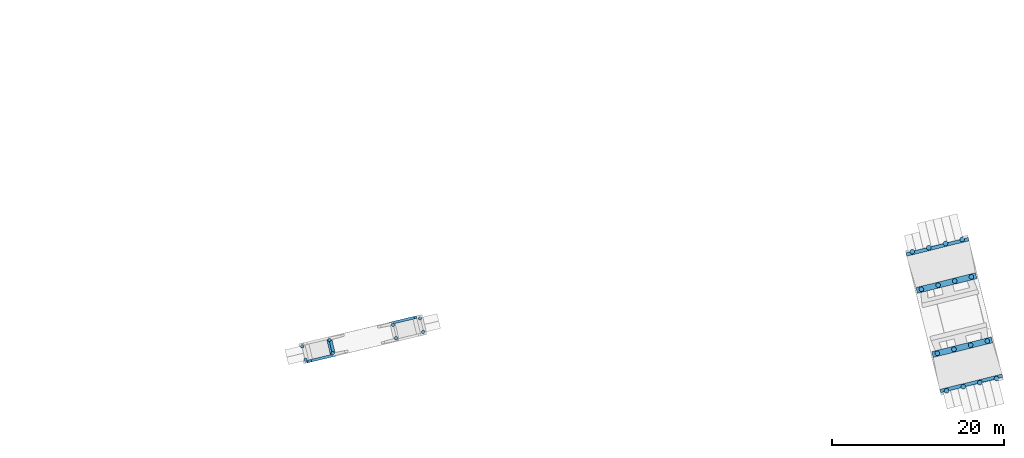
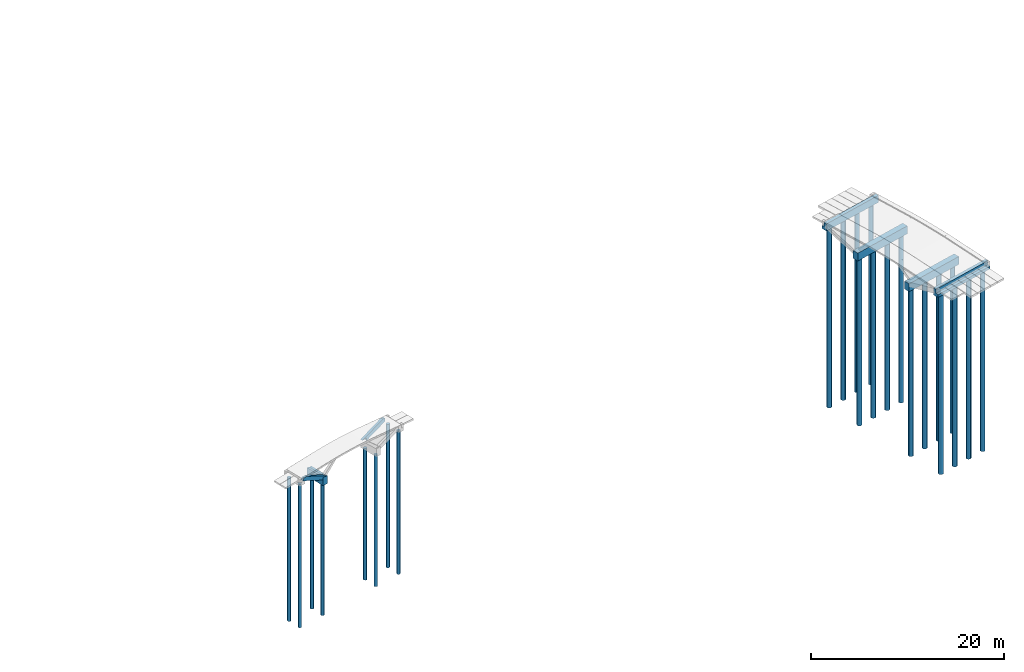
# One storey, part 1 of 15: 24 piles, 7 footings.
"""IFC2X3 building model written with IfcOpenShell, lengths in millimetres."""

from ifc_helpers import new_model, entity, si_unit, converted_unit, derived_unit, direction, frame, frame_2d, origin, origin_2d_with_axis, place, context, subcontext, project, spatial, polyline, rectangle, circle, outline, extrude, material, element, save


model = new_model("IFC2X3")

# Units and contexts
model_context = context("Model", 3, precision=0.01, world=origin(), true_north=direction((6.12303176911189e-17, 1.0)))
body_context = subcontext(model_context, "Body", "Model", "MODEL_VIEW")
ifc_project = project(units=[si_unit("LENGTHUNIT", "METRE", prefix="MILLI"), si_unit("AREAUNIT", "SQUARE_METRE"), si_unit("VOLUMEUNIT", "CUBIC_METRE"), converted_unit("PLANEANGLEUNIT", "DEGREE", entity("IfcRatioMeasure", 0.0174532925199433), si_unit("PLANEANGLEUNIT", "RADIAN"), dimensions=[0, 0, 0, 0, 0, 0, 0]), si_unit("MASSUNIT", "GRAM", prefix="KILO"), derived_unit("MASSDENSITYUNIT", [(si_unit("MASSUNIT", "GRAM", prefix="KILO"), 1), (si_unit("LENGTHUNIT", "METRE"), -3)]), si_unit("TIMEUNIT", "SECOND"), si_unit("FREQUENCYUNIT", "HERTZ"), si_unit("THERMODYNAMICTEMPERATUREUNIT", "DEGREE_CELSIUS"), derived_unit("THERMALTRANSMITTANCEUNIT", [(si_unit("MASSUNIT", "GRAM", prefix="KILO"), 1), (si_unit("THERMODYNAMICTEMPERATUREUNIT", "KELVIN"), -1), (si_unit("TIMEUNIT", "SECOND"), -3)]), derived_unit("VOLUMETRICFLOWRATEUNIT", [(si_unit("LENGTHUNIT", "METRE"), 3), (si_unit("TIMEUNIT", "SECOND"), -1)]), si_unit("ELECTRICCURRENTUNIT", "AMPERE"), si_unit("ELECTRICVOLTAGEUNIT", "VOLT"), si_unit("POWERUNIT", "WATT"), si_unit("FORCEUNIT", "NEWTON", prefix="KILO"), si_unit("ILLUMINANCEUNIT", "LUX"), si_unit("LUMINOUSFLUXUNIT", "LUMEN"), si_unit("LUMINOUSINTENSITYUNIT", "CANDELA"), derived_unit("USERDEFINED", [(si_unit("MASSUNIT", "GRAM", prefix="KILO"), -1), (si_unit("LENGTHUNIT", "METRE"), -2), (si_unit("TIMEUNIT", "SECOND"), 3), (si_unit("LUMINOUSFLUXUNIT", "LUMEN"), 1)]), derived_unit("LINEARVELOCITYUNIT", [(si_unit("LENGTHUNIT", "METRE"), 1), (si_unit("TIMEUNIT", "SECOND"), -1)]), si_unit("PRESSUREUNIT", "PASCAL"), derived_unit("USERDEFINED", [(si_unit("LENGTHUNIT", "METRE"), -2), (si_unit("MASSUNIT", "GRAM", prefix="KILO"), 1), (si_unit("TIMEUNIT", "SECOND"), -2)])], contexts=[model_context])

# Site, building, storey
site_placement = place(None, origin())
site = spatial("IfcSite", under=ifc_project, at=site_placement, Name="Bruggen Achterburggracht Machinesloot", CompositionType="ELEMENT")
building_placement = place(site_placement, origin())
building = spatial("IfcBuilding", under=site, at=building_placement, Name="Bruggen Achterburggracht Machinesloot", CompositionType="ELEMENT")
storey_placement = place(building_placement, origin())
storey = spatial("IfcBuildingStorey", under=building, at=storey_placement, Name="00 begane grond", CompositionType="ELEMENT", Elevation=2.70716782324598e-13)

# Footing
ifc_material = material(Name="00_PBT_MAT_beton t.p.g.")
footing_1_placement = place(storey_placement, origin())
element("IfcFooting", 1, at=footing_1_placement, inside=storey, material=ifc_material, Name="16_PBT_SF_funderingsbalk enkele sponning:Brug 3_600x1000", ObjectType="16_PBT_SF_funderingsbalk enkele sponning:Brug 3_600x1000", PredefinedType="NOTDEFINED", context=body_context, shape_type="SweptSolid", body=[
    extrude(outline(polyline([(-313.333333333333, -316.666666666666), (686.666666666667, -316.666666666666), (686.666666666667, 283.333333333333), (-373.333333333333, 283.333333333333), (-373.333333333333, 33.3333333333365), (-313.333333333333, 33.3333333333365), (-313.333333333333, -316.666666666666)])), frame((-32713.778425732, -47840.6234461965, -1663.33333333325), z_axis=(-0.231394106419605, 0.972860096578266, 0.0), x_axis=(0.0, 0.0, -1.0)), (0.0, 0.0, 1.0), 2400.00000048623),
])

# Piles
pile_1_placement = place(storey_placement, origin())
element("IfcPile", 2, at=pile_1_placement, inside=storey, Name="17_PBT_SFO_paal_rond:Ø400 (schroefpaal) brug 3 -855P -19000NAP", ObjectType="17_PBT_SFO_paal_rond:Ø400 (schroefpaal) brug 3 -855P -19000NAP", ConstructionType="NOTDEFINED", PredefinedType="NOTDEFINED", context=body_context, shape_type="SweptSolid", body=[
    extrude(circle(Radius=200.0, at=origin_2d_with_axis()), frame((-22604.8420867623, -43380.323378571, -19000.0), z_axis=(0.0, 0.0, 1.0), x_axis=(0.97285671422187, 0.231408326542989, 0.0)), (0.0, 0.0, 1.0), 18165.0),
])
pile_2_placement = place(storey_placement, origin())
element("IfcPile", 3, at=pile_2_placement, inside=storey, Name="17_PBT_SFO_paal_rond:Ø400 (schroefpaal) brug 3 -2350P -19000NAP", ObjectType="17_PBT_SFO_paal_rond:Ø400 (schroefpaal) brug 3 -2350P -19000NAP", ConstructionType="NOTDEFINED", PredefinedType="NOTDEFINED", context=body_context, shape_type="SweptSolid", body=[
    extrude(circle(Radius=200.0, at=origin_2d_with_axis()), frame((-25766.6358819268, -44132.3981358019, -19000.0), z_axis=(0.0, 0.0, 1.0), x_axis=(0.97285671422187, 0.231408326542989, 0.0)), (0.0, 0.0, 1.0), 16670.0),
])
pile_3_placement = place(storey_placement, origin())
element("IfcPile", 4, at=pile_3_placement, inside=storey, Name="17_PBT_SFO_paal_rond:Ø400 (schroefpaal) brug 3 -2350P -19000NAP", ObjectType="17_PBT_SFO_paal_rond:Ø400 (schroefpaal) brug 3 -2350P -19000NAP", ConstructionType="NOTDEFINED", PredefinedType="NOTDEFINED", context=body_context, shape_type="SweptSolid", body=[
    extrude(circle(Radius=200.0, at=origin_2d_with_axis()), frame((-33160.3515676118, -45891.1030803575, -19000.0), z_axis=(0.0, 0.0, 1.0), x_axis=(0.97285671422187, 0.231408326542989, 0.0)), (0.0, 0.0, 1.0), 16670.0),
])
pile_4_placement = place(storey_placement, origin())
element("IfcPile", 5, at=pile_4_placement, inside=storey, Name="17_PBT_SFO_paal_rond:Ø400 (schroefpaal) brug 3 -855P -19000NAP", ObjectType="17_PBT_SFO_paal_rond:Ø400 (schroefpaal) brug 3 -855P -19000NAP", ConstructionType="NOTDEFINED", PredefinedType="NOTDEFINED", context=body_context, shape_type="SweptSolid", body=[
    extrude(circle(Radius=200.0, at=origin_2d_with_axis()), frame((-36322.1351434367, -46643.1825510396, -19000.0), z_axis=(0.0, 0.0, 1.0), x_axis=(0.97285671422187, 0.231408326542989, 0.0)), (0.0, 0.0, 1.0), 18165.0),
])
pile_5_placement = place(storey_placement, origin())
element("IfcPile", 6, at=pile_5_placement, inside=storey, Name="17_PBT_SFO_paal_rond:Ø400 (schroefpaal) brug 3 -855P -19000NAP", ObjectType="17_PBT_SFO_paal_rond:Ø400 (schroefpaal) brug 3 -855P -19000NAP", ConstructionType="NOTDEFINED", PredefinedType="NOTDEFINED", context=body_context, shape_type="SweptSolid", body=[
    extrude(circle(Radius=200.0, at=origin_2d_with_axis()), frame((-22234.5887642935, -44936.894121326, -19000.0), z_axis=(0.0, 0.0, 1.0), x_axis=(0.97285671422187, 0.231408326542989, 0.0)), (0.0, 0.0, 1.0), 18165.0),
])
pile_6_placement = place(storey_placement, origin())
element("IfcPile", 7, at=pile_6_placement, inside=storey, Name="17_PBT_SFO_paal_rond:Ø400 (schroefpaal) brug 3 -2350P -19000NAP", ObjectType="17_PBT_SFO_paal_rond:Ø400 (schroefpaal) brug 3 -2350P -19000NAP", ConstructionType="NOTDEFINED", PredefinedType="NOTDEFINED", context=body_context, shape_type="SweptSolid", body=[
    extrude(circle(Radius=200.0, at=origin_2d_with_axis()), frame((-25396.382559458, -45688.9688785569, -19000.0), z_axis=(0.0, 0.0, 1.0), x_axis=(0.97285671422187, 0.231408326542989, 0.0)), (0.0, 0.0, 1.0), 16670.0),
])
pile_7_placement = place(storey_placement, origin())
element("IfcPile", 8, at=pile_7_placement, inside=storey, Name="17_PBT_SFO_paal_rond:Ø400 (schroefpaal) brug 3 -2350P -19000NAP", ObjectType="17_PBT_SFO_paal_rond:Ø400 (schroefpaal) brug 3 -2350P -19000NAP", ConstructionType="NOTDEFINED", PredefinedType="NOTDEFINED", context=body_context, shape_type="SweptSolid", body=[
    extrude(circle(Radius=200.0, at=origin_2d_with_axis()), frame((-32790.098245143, -47447.6738231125, -19000.0), z_axis=(0.0, 0.0, 1.0), x_axis=(0.97285671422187, 0.231408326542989, 0.0)), (0.0, 0.0, 1.0), 16670.0),
])
pile_8_placement = place(storey_placement, origin())
element("IfcPile", 9, at=pile_8_placement, inside=storey, Name="17_PBT_SFO_paal_rond:Ø400 (schroefpaal) brug 3 -855P -19000NAP", ObjectType="17_PBT_SFO_paal_rond:Ø400 (schroefpaal) brug 3 -855P -19000NAP", ConstructionType="NOTDEFINED", PredefinedType="NOTDEFINED", context=body_context, shape_type="SweptSolid", body=[
    extrude(circle(Radius=200.0, at=origin_2d_with_axis()), frame((-35951.8818209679, -48199.7532937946, -19000.0), z_axis=(0.0, 0.0, 1.0), x_axis=(0.97285671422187, 0.231408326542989, 0.0)), (0.0, 0.0, 1.0), 18165.0),
])

# Footings
footing_2_placement = place(storey_placement, origin())
element("IfcFooting", 10, at=footing_2_placement, inside=storey, material=ifc_material, Name="16_PBT_SF_funderingsbalk enkele sponning:Brug 4_700x1000", ObjectType="16_PBT_SF_funderingsbalk enkele sponning:Brug 4_700x1000", PredefinedType="NOTDEFINED", context=body_context, shape_type="SweptSolid", body=[
    extrude(rectangle(XDim=7140.00000000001, YDim=700.000000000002, at=frame_2d((9.09494701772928e-13, 4.17799128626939e-12), x_axis=(1.0, 0.0))), frame((40620.6273953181, -46731.1069814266, -2350.0), z_axis=(0.0, 0.0, 1.0), x_axis=(-0.970742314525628, -0.240123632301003, 0.0)), (0.0, 0.0, 1.0), 1000.0),
])
footing_3_placement = place(storey_placement, origin())
element("IfcFooting", 11, at=footing_3_placement, inside=storey, material=ifc_material, Name="319-150_funderingsbalk tpv stootplaat:Brug 4_700x900", ObjectType="319-150_funderingsbalk tpv stootplaat:Brug 4_700x900", PredefinedType="NOTDEFINED", context=body_context, shape_type="SweptSolid", body=[
    extrude(outline(polyline([(-422.142857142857, -392.857142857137), (477.857142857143, -392.857142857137), (477.857142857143, 7.14285714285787), (-22.1428571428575, 7.14285714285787), (-22.1428571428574, 157.142857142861), (-67.1428571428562, 307.142857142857), (-422.142857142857, 307.142857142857), (-422.142857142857, -392.857142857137)])), frame((38071.1178993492, -52041.4881930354, -307.857142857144), z_axis=(0.970745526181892, 0.240110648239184, 0.0), x_axis=(0.0, 0.0, 1.0)), (0.0, 0.0, 1.0), 7500.0),
])
footing_4_placement = place(storey_placement, origin())
element("IfcFooting", 12, at=footing_4_placement, inside=storey, material=ifc_material, Name="16_PBT_SF_funderingsbalk enkele sponning:Brug 4_700x1000", ObjectType="16_PBT_SF_funderingsbalk enkele sponning:Brug 4_700x1000", PredefinedType="NOTDEFINED", context=body_context, shape_type="SweptSolid", body=[
    extrude(rectangle(XDim=700.000000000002, YDim=7140.0, at=frame_2d((-2.07478478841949e-12, 4.54747350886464e-13), x_axis=(1.0, 0.0))), frame((38771.6754267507, -39256.3911601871, -2350.0), z_axis=(0.0, 0.0, 1.0), x_axis=(-0.240123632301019, 0.970742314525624, 0.0)), (0.0, 0.0, 1.0), 1000.0),
])
footing_5_placement = place(storey_placement, origin())
element("IfcFooting", 13, at=footing_5_placement, inside=storey, material=ifc_material, Name="319-150_funderingsbalk tpv stootplaat:Brug 4_700x900", ObjectType="319-150_funderingsbalk tpv stootplaat:Brug 4_700x900", PredefinedType="NOTDEFINED", context=body_context, shape_type="SweptSolid", body=[
    extrude(outline(polyline([(-305.555555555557, -478.086525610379), (394.444444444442, -478.086525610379), (394.444444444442, -123.086525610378), (244.444444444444, -78.0865256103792), (94.4444444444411, -78.0865256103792), (94.4444444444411, 421.913474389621), (-305.555555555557, 421.913474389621), (-305.555555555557, 364.036795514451), (-305.555555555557, 27.5688837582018), (-305.555555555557, -478.086525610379)])), frame((34061.4561129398, -35831.7153631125, -251.913474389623), z_axis=(0.970739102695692, 0.240136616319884, 0.0), x_axis=(-0.240136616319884, 0.970739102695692, 0.0)), (0.0, 0.0, 1.0), 7499.99999999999),
])

# Piles
pile_9_placement = place(storey_placement, origin())
element("IfcPile", 14, at=pile_9_placement, inside=storey, Name="17_PBT_SFO_paal_rond:Ø550 (schroefpaal) brug 4 -730P -23500NAP", ObjectType="17_PBT_SFO_paal_rond:Ø550 (schroefpaal) brug 4 -730P -23500NAP", ConstructionType="NOTDEFINED", PredefinedType="NOTDEFINED", context=body_context, shape_type="SweptSolid", body=[
    extrude(circle(Radius=275.0, at=origin_2d_with_axis()), frame((38661.8876581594, -34647.7640252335, -23500.0), z_axis=(0.0, 0.0, 1.0), x_axis=(0.240058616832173, -0.970758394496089, 0.0)), (0.0, 0.0, 1.0), 22790.0),
])
pile_10_placement = place(storey_placement, origin())
element("IfcPile", 15, at=pile_10_placement, inside=storey, Name="17_PBT_SFO_paal_rond:Ø550 (schroefpaal) brug 4 -2350P -23500NAP", ObjectType="17_PBT_SFO_paal_rond:Ø550 (schroefpaal) brug 4 -2350P -23500NAP", ConstructionType="NOTDEFINED", PredefinedType="NOTDEFINED", context=body_context, shape_type="SweptSolid", body=[
    extrude(circle(Radius=275.0, at=origin_2d_with_axis()), frame((39742.467742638, -39016.1618238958, -23500.0), z_axis=(0.0, 0.0, 1.0), x_axis=(0.240058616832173, -0.970758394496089, 0.0)), (0.0, 0.0, 1.0), 21170.0),
])
pile_11_placement = place(storey_placement, origin())
element("IfcPile", 16, at=pile_11_placement, inside=storey, Name="17_PBT_SFO_paal_rond:Ø550 (schroefpaal) brug 4 -730P -23500NAP", ObjectType="17_PBT_SFO_paal_rond:Ø550 (schroefpaal) brug 4 -730P -23500NAP", ConstructionType="NOTDEFINED", PredefinedType="NOTDEFINED", context=body_context, shape_type="SweptSolid", body=[
    extrude(circle(Radius=275.0, at=origin_2d_with_axis()), frame((40603.4044471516, -34167.6467915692, -23500.0), z_axis=(0.0, 0.0, 1.0), x_axis=(0.240058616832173, -0.970758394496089, 0.0)), (0.0, 0.0, 1.0), 22790.0),
])
pile_12_placement = place(storey_placement, origin())
element("IfcPile", 17, at=pile_12_placement, inside=storey, Name="17_PBT_SFO_paal_rond:Ø550 (schroefpaal) brug 4 -2350P -23500NAP", ObjectType="17_PBT_SFO_paal_rond:Ø550 (schroefpaal) brug 4 -2350P -23500NAP", ConstructionType="NOTDEFINED", PredefinedType="NOTDEFINED", context=body_context, shape_type="SweptSolid", body=[
    extrude(circle(Radius=275.0, at=origin_2d_with_axis()), frame((41683.9845316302, -38536.0445902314, -23500.0), z_axis=(0.0, 0.0, 1.0), x_axis=(0.240058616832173, -0.970758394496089, 0.0)), (0.0, 0.0, 1.0), 21170.0),
])
pile_13_placement = place(storey_placement, origin())
element("IfcPile", 18, at=pile_13_placement, inside=storey, Name="17_PBT_SFO_paal_rond:Ø550 (schroefpaal) brug 4 -730P -23500NAP", ObjectType="17_PBT_SFO_paal_rond:Ø550 (schroefpaal) brug 4 -730P -23500NAP", ConstructionType="NOTDEFINED", PredefinedType="NOTDEFINED", context=body_context, shape_type="SweptSolid", body=[
    extrude(circle(Radius=275.0, at=origin_2d_with_axis()), frame((36720.3708691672, -35127.8812588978, -23500.0), z_axis=(0.0, 0.0, 1.0), x_axis=(0.240058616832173, -0.970758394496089, 0.0)), (0.0, 0.0, 1.0), 22790.0),
])
pile_14_placement = place(storey_placement, origin())
element("IfcPile", 19, at=pile_14_placement, inside=storey, Name="17_PBT_SFO_paal_rond:Ø550 (schroefpaal) brug 4 -2350P -23500NAP", ObjectType="17_PBT_SFO_paal_rond:Ø550 (schroefpaal) brug 4 -2350P -23500NAP", ConstructionType="NOTDEFINED", PredefinedType="NOTDEFINED", context=body_context, shape_type="SweptSolid", body=[
    extrude(circle(Radius=275.0, at=origin_2d_with_axis()), frame((37800.9509536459, -39496.2790575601, -23500.0), z_axis=(0.0, 0.0, 1.0), x_axis=(0.240058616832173, -0.970758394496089, 0.0)), (0.0, 0.0, 1.0), 21170.0),
])
pile_15_placement = place(storey_placement, origin())
element("IfcPile", 20, at=pile_15_placement, inside=storey, Name="17_PBT_SFO_paal_rond:Ø550 (schroefpaal) brug 4 -730P -23500NAP", ObjectType="17_PBT_SFO_paal_rond:Ø550 (schroefpaal) brug 4 -730P -23500NAP", ConstructionType="NOTDEFINED", PredefinedType="NOTDEFINED", context=body_context, shape_type="SweptSolid", body=[
    extrude(circle(Radius=275.0, at=origin_2d_with_axis()), frame((34778.8540801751, -35607.9984925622, -23500.0), z_axis=(0.0, 0.0, 1.0), x_axis=(0.240058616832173, -0.970758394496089, 0.0)), (0.0, 0.0, 1.0), 22790.0),
])
pile_16_placement = place(storey_placement, origin())
element("IfcPile", 21, at=pile_16_placement, inside=storey, Name="17_PBT_SFO_paal_rond:Ø550 (schroefpaal) brug 4 -2350P -23500NAP", ObjectType="17_PBT_SFO_paal_rond:Ø550 (schroefpaal) brug 4 -2350P -23500NAP", ConstructionType="NOTDEFINED", PredefinedType="NOTDEFINED", context=body_context, shape_type="SweptSolid", body=[
    extrude(circle(Radius=275.0, at=origin_2d_with_axis()), frame((35859.4341646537, -39976.3962912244, -23500.0), z_axis=(0.0, 0.0, 1.0), x_axis=(0.240058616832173, -0.970758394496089, 0.0)), (0.0, 0.0, 1.0), 21170.0),
])
pile_17_placement = place(storey_placement, origin())
element("IfcPile", 22, at=pile_17_placement, inside=storey, Name="17_PBT_SFO_paal_rond:Ø550 (schroefpaal) brug 4 -2350P -23500NAP", ObjectType="17_PBT_SFO_paal_rond:Ø550 (schroefpaal) brug 4 -2350P -23500NAP", ConstructionType="NOTDEFINED", PredefinedType="NOTDEFINED", context=body_context, shape_type="SweptSolid", body=[
    extrude(circle(Radius=275.0, at=origin_2d_with_axis()), frame((41592.9144871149, -46490.7392185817, -23500.0), z_axis=(0.0, 0.0, 1.0), x_axis=(0.240058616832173, -0.970758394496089, 0.0)), (0.0, 0.0, 1.0), 21170.0),
])
pile_18_placement = place(storey_placement, origin())
element("IfcPile", 23, at=pile_18_placement, inside=storey, Name="17_PBT_SFO_paal_rond:Ø550 (schroefpaal) brug 4 -2350P -23500NAP", ObjectType="17_PBT_SFO_paal_rond:Ø550 (schroefpaal) brug 4 -2350P -23500NAP", ConstructionType="NOTDEFINED", PredefinedType="NOTDEFINED", context=body_context, shape_type="SweptSolid", body=[
    extrude(circle(Radius=275.0, at=origin_2d_with_axis()), frame((43534.431276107, -46010.6219849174, -23500.0), z_axis=(0.0, 0.0, 1.0), x_axis=(0.240058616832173, -0.970758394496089, 0.0)), (0.0, 0.0, 1.0), 21170.0),
])
pile_19_placement = place(storey_placement, origin())
element("IfcPile", 24, at=pile_19_placement, inside=storey, Name="17_PBT_SFO_paal_rond:Ø550 (schroefpaal) brug 4 -2350P -23500NAP", ObjectType="17_PBT_SFO_paal_rond:Ø550 (schroefpaal) brug 4 -2350P -23500NAP", ConstructionType="NOTDEFINED", PredefinedType="NOTDEFINED", context=body_context, shape_type="SweptSolid", body=[
    extrude(circle(Radius=275.0, at=origin_2d_with_axis()), frame((39651.3976981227, -46970.856452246, -23500.0), z_axis=(0.0, 0.0, 1.0), x_axis=(0.240058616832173, -0.970758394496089, 0.0)), (0.0, 0.0, 1.0), 21170.0),
])
pile_20_placement = place(storey_placement, origin())
element("IfcPile", 25, at=pile_20_placement, inside=storey, Name="17_PBT_SFO_paal_rond:Ø550 (schroefpaal) brug 4 -2350P -23500NAP", ObjectType="17_PBT_SFO_paal_rond:Ø550 (schroefpaal) brug 4 -2350P -23500NAP", ConstructionType="NOTDEFINED", PredefinedType="NOTDEFINED", context=body_context, shape_type="SweptSolid", body=[
    extrude(circle(Radius=275.0, at=origin_2d_with_axis()), frame((37709.8809091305, -47450.9736859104, -23500.0), z_axis=(0.0, 0.0, 1.0), x_axis=(0.240058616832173, -0.970758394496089, 0.0)), (0.0, 0.0, 1.0), 21170.0),
])
pile_21_placement = place(storey_placement, origin())
element("IfcPile", 26, at=pile_21_placement, inside=storey, Name="17_PBT_SFO_paal_rond:Ø550 (schroefpaal) brug 4 -730P -23500NAP", ObjectType="17_PBT_SFO_paal_rond:Ø550 (schroefpaal) brug 4 -730P -23500NAP", ConstructionType="NOTDEFINED", PredefinedType="NOTDEFINED", context=body_context, shape_type="SweptSolid", body=[
    extrude(circle(Radius=275.0, at=origin_2d_with_axis()), frame((42671.8958465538, -50859.5733745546, -23500.0), z_axis=(0.0, 0.0, 1.0), x_axis=(0.240058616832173, -0.970758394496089, 0.0)), (0.0, 0.0, 1.0), 22790.0),
])
pile_22_placement = place(storey_placement, origin())
element("IfcPile", 27, at=pile_22_placement, inside=storey, Name="17_PBT_SFO_paal_rond:Ø550 (schroefpaal) brug 4 -730P -23500NAP", ObjectType="17_PBT_SFO_paal_rond:Ø550 (schroefpaal) brug 4 -730P -23500NAP", ConstructionType="NOTDEFINED", PredefinedType="NOTDEFINED", context=body_context, shape_type="SweptSolid", body=[
    extrude(circle(Radius=275.0, at=origin_2d_with_axis()), frame((44613.4126383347, -50379.4561402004, -23500.0), z_axis=(0.0, 0.0, 1.0), x_axis=(0.240058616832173, -0.970758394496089, 0.0)), (0.0, 0.0, 1.0), 22790.0),
])
pile_23_placement = place(storey_placement, origin())
element("IfcPile", 28, at=pile_23_placement, inside=storey, Name="17_PBT_SFO_paal_rond:Ø550 (schroefpaal) brug 4 -730P -23500NAP", ObjectType="17_PBT_SFO_paal_rond:Ø550 (schroefpaal) brug 4 -730P -23500NAP", ConstructionType="NOTDEFINED", PredefinedType="NOTDEFINED", context=body_context, shape_type="SweptSolid", body=[
    extrude(circle(Radius=275.0, at=origin_2d_with_axis()), frame((40730.3790547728, -51339.6906089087, -23500.0), z_axis=(0.0, 0.0, 1.0), x_axis=(0.240058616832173, -0.970758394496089, 0.0)), (0.0, 0.0, 1.0), 22790.0),
])
pile_24_placement = place(storey_placement, origin())
element("IfcPile", 29, at=pile_24_placement, inside=storey, Name="17_PBT_SFO_paal_rond:Ø550 (schroefpaal) brug 4 -730P -23500NAP", ObjectType="17_PBT_SFO_paal_rond:Ø550 (schroefpaal) brug 4 -730P -23500NAP", ConstructionType="NOTDEFINED", PredefinedType="NOTDEFINED", context=body_context, shape_type="SweptSolid", body=[
    extrude(circle(Radius=275.0, at=origin_2d_with_axis()), frame((38788.8622629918, -51819.8078432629, -23500.0), z_axis=(0.0, 0.0, 1.0), x_axis=(0.240058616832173, -0.970758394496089, 0.0)), (0.0, 0.0, 1.0), 22790.0),
])

# Footings
footing_6_placement = place(storey_placement, origin())
element("IfcFooting", 30, at=footing_6_placement, inside=storey, material=ifc_material, Name="16_PBT_SF_funderingsbalk:300x500 i.h.w.g.", ObjectType="16_PBT_SF_funderingsbalk:300x500 i.h.w.g.", PredefinedType="NOTDEFINED", context=body_context, shape_type="SweptSolid", body=[
    extrude(outline(polyline([(1606.62573200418, -932.185814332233), (1886.67686037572, -932.185814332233), (1886.67686037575, -509.55447078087), (-713.325234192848, 648.041043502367), (-713.325234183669, 374.392492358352), (-713.325234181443, 307.873320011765), (-963.325234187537, 307.873320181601), (-963.32523418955, 367.873320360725), (-1313.35328182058, 367.872603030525), (1606.62573200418, -932.185814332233)])), frame((-24803.9500132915, -43800.6191829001, -982.126679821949), z_axis=(-0.231408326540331, 0.972856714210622, -4.80796345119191e-06), x_axis=(0.972856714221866, 0.231408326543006, 0.0)), (0.0, 0.0, 1.0), 299.999967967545),
])
footing_7_placement = place(storey_placement, origin())
element("IfcFooting", 31, at=footing_7_placement, inside=storey, material=ifc_material, Name="16_PBT_SF_funderingsbalk:300x500 i.h.w.g.", ObjectType="16_PBT_SF_funderingsbalk:300x500 i.h.w.g.", PredefinedType="NOTDEFINED", context=body_context, shape_type="SweptSolid", body=[
    extrude(outline(polyline([(-1450.93570794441, -429.242547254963), (-1100.9278485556, -429.242547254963), (-1100.92772423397, -369.242546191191), (-850.927724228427, -369.243065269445), (-850.928429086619, -709.421219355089), (2010.92305538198, 564.75004913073), (1874.65246287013, 870.820517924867), (1469.07191579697, 870.821358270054), (-1450.93570794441, -429.242547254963)])), frame((-33817.2694375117, -48103.023907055, -920.755171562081), z_axis=(-0.231387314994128, 0.972861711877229, 4.80796334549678e-06), x_axis=(-0.97286171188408, -0.231387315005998, 2.07206018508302e-06)), (0.0, 0.0, 1.0), 299.999967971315),
])

save(model, "model.ifc")
